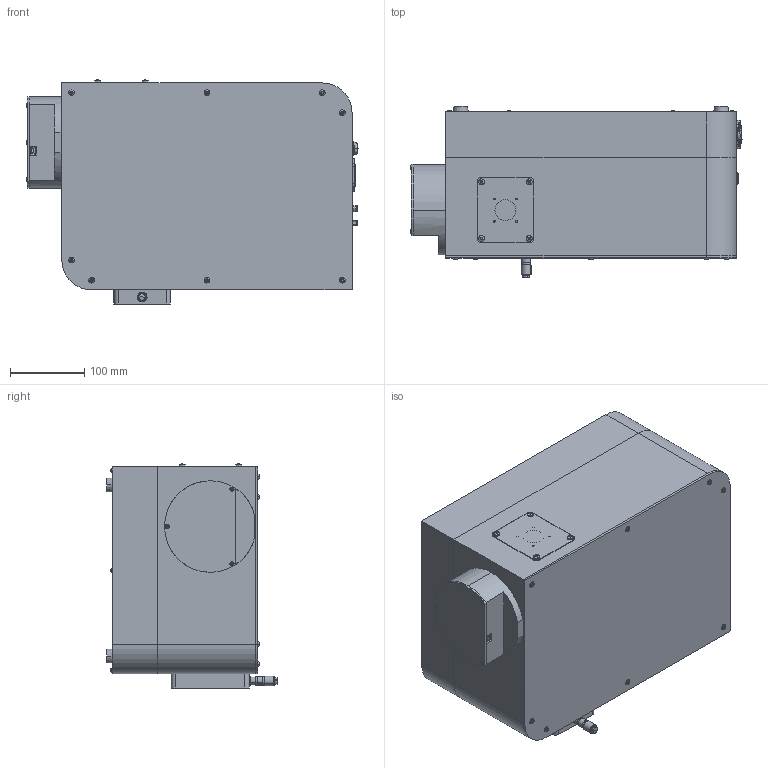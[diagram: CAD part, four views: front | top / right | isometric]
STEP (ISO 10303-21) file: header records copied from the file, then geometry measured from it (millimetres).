
FILE_DESCRIPTION (( 'STEP AP203' ), '1' );
FILE_NAME ('7ISW3051出入口垂直CCD光谱仪.STEP', '2021-01-12T02:11:59', ( '' ), ( '' ), 'SwSTEP 2.0', 'SolidWorks 2018', '' );
FILE_SCHEMA (( 'CONFIG_CONTROL_DESIGN' ));
Length unit declared in the file: millimetre
Products named in the file (1): 7ISW3051出入口垂直CCD光谱仪
Bounding box: 446.15 x 229.74 x 301.04 mm (x, y, z)
Surface area: 556381.9 mm2 (no closed solid volume)
Topology: 0 solids, 81 shells, 665 faces, 2503 edges, 1891 vertices
Faces by surface type: plane 361, cylinder 185, cone 56, sphere 48, torus 15
Entity records: 27077 total; most frequent: CARTESIAN_POINT 5446, DIRECTION 4833, ORIENTED_EDGE 3645, EDGE_CURVE 2503, VERTEX_POINT 1891, AXIS2_PLACEMENT_3D 1738, VECTOR 1357, LINE 1357
